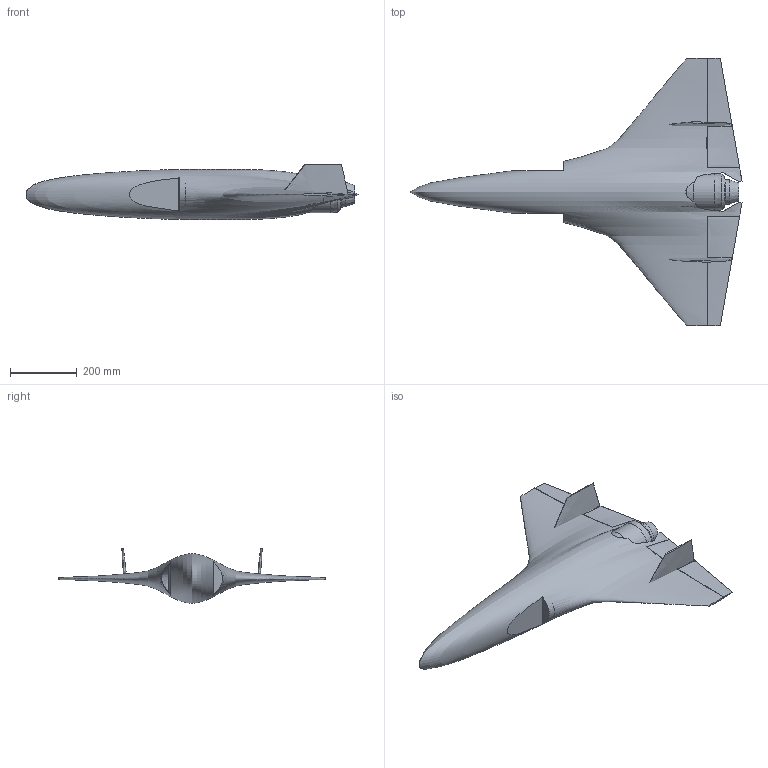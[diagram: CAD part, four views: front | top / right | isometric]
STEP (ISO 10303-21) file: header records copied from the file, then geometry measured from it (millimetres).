
FILE_DESCRIPTION(('Open CASCADE Model'),'2;1');
FILE_NAME('romb_d5_jet200','2026-11-26T20:22:20',('Author'),( 'Open CASCADE'),'Open CASCADE STEP processor 8.0','build123d', 'Unknown');
FILE_SCHEMA(('AUTOMOTIVE_DESIGN { 1 0 10303 214 1 1 1 1 }'));
Length unit declared in the file: millimetre
Products named in the file (9): romb_d5_jet200; elevon_in_R; elevon_out_R; elevon_in_L; elevon_out_L; body; fin_R; fin_L; engine_jet200
Assembly tree (8 placements, depth 2):
  romb_d5_jet200
    elevon_in_R
    elevon_out_R
    elevon_in_L
    elevon_out_L
    body
    fin_R
    fin_L
    engine_jet200
Bounding box: 994.36 x 800 x 164.87 mm (x, y, z)
Volume: 15752250.2 mm3; surface area: 1020567.7 mm2
Topology: 10 solids, 10 shells, 98 faces, 216 edges, 140 vertices
Faces by surface type: plane 43, bspline 30, cone 19, cylinder 6
Full cylindrical faces by diameter (mm): 25 x1, 84.2 x1, 109 x1, 119 x1
Entity records: 1221376 total; most frequent: CARTESIAN_POINT 1217610, DIRECTION 434, ORIENTED_EDGE 430, PCURVE 430, DEFINITIONAL_REPRESENTATION 430, B_SPLINE_CURVE_WITH_KNOTS 375, EDGE_CURVE 215, LINE 213
